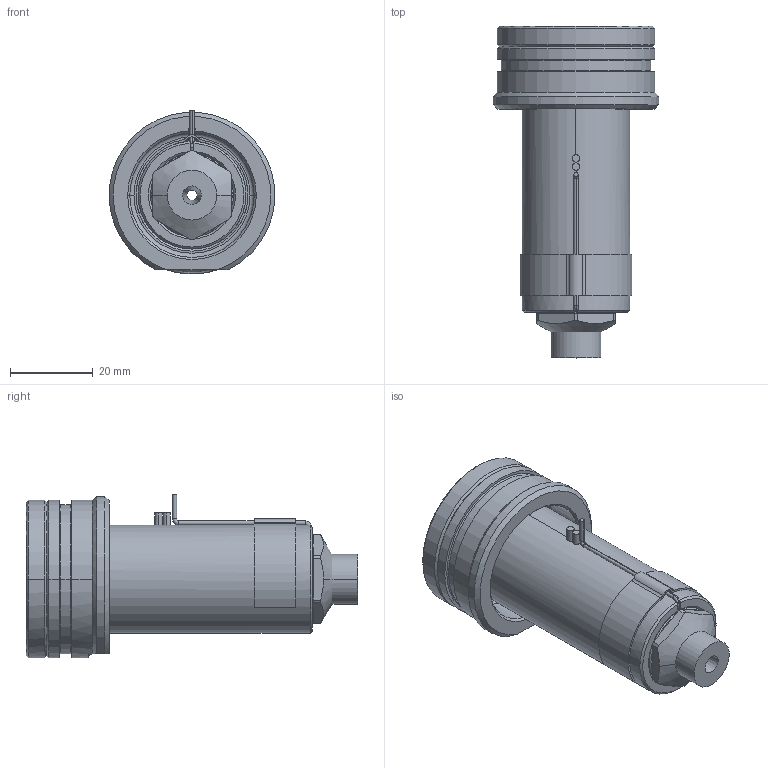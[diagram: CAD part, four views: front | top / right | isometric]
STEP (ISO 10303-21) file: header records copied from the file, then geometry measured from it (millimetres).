
FILE_DESCRIPTION((''),'2;1');
FILE_NAME('EO08_SG_SG_060_SW','2024-02-19T12:19:40',('sundharh'),(''),'CREO PARAMETRIC BY PTC INC, 2023154','CREO PARAMETRIC BY PTC INC, 2023154','');
FILE_SCHEMA(('CONFIG_CONTROL_DESIGN'));
Length unit declared in the file: millimetre
Products named in the file (1): EO08_SG_SG_060_SW
Bounding box: 39.88 x 80 x 39.52 mm (x, y, z)
Volume: 44734.4 mm3; surface area: 14309.9 mm2
Topology: 1 solids, 1 shells, 167 faces, 419 edges, 256 vertices
Faces by surface type: cylinder 64, plane 44, cone 33, torus 19, bspline 4, sphere 3
Entity records: 6123 total; most frequent: CARTESIAN_POINT 2050, DIRECTION 895, ORIENTED_EDGE 826, EDGE_CURVE 413, AXIS2_PLACEMENT_3D 370, VERTEX_POINT 256, CIRCLE 207, EDGE_LOOP 183
